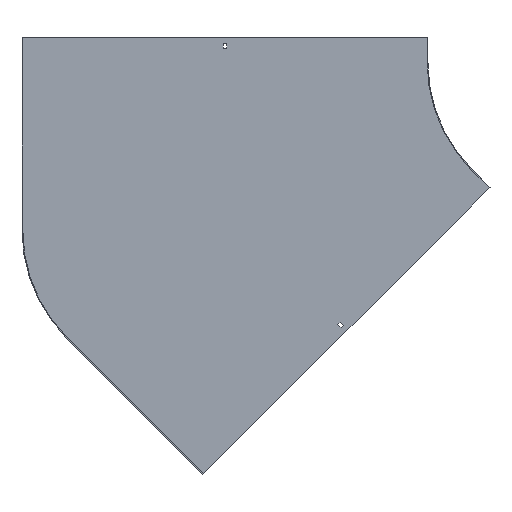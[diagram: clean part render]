
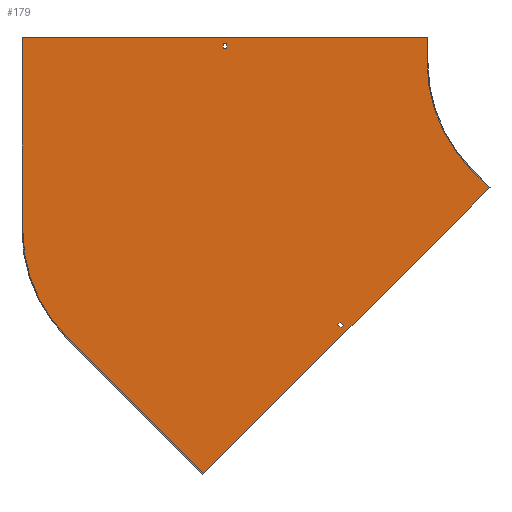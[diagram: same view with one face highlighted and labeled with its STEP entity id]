
A CAD part, front view. The second image highlights one B-rep face of the part: STEP entity #179.
In plain terms, the highlighted planar face has unit normal (0, -1, 0).
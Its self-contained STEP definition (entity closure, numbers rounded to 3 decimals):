
#2 = CARTESIAN_POINT ( 'NONE',  ( -800., -1.5, -331.371 ) ) ;
#4 = VERTEX_POINT ( 'NONE', #636 ) ;
#8 = CARTESIAN_POINT ( 'NONE',  ( 0., -1.5, 29. ) ) ;
#10 = FACE_BOUND ( 'NONE', #368, .T. ) ;
#27 = LINE ( 'NONE', #290, #752 ) ;
#43 = EDGE_LOOP ( 'NONE', ( #602, #136, #538, #697 ) ) ;
#44 = CARTESIAN_POINT ( 'NONE',  ( -703.25, -1.5, 38. ) ) ;
#47 = ORIENTED_EDGE ( 'NONE', *, *, #209, .F. ) ;
#48 = VECTOR ( 'NONE', #497, 1000. ) ;
#59 = VECTOR ( 'NONE', #69, 1000. ) ;
#69 = DIRECTION ( 'NONE',  ( 0., 0., 1. ) ) ;
#78 = ORIENTED_EDGE ( 'NONE', *, *, #601, .F. ) ;
#89 = CARTESIAN_POINT ( 'NONE',  ( 0., -1.5, 0. ) ) ;
#90 = ORIENTED_EDGE ( 'NONE', *, *, #309, .F. ) ;
#95 = CARTESIAN_POINT ( 'NONE',  ( -497.273, -1.5, -497.273 ) ) ;
#106 = VECTOR ( 'NONE', #115, 1000. ) ;
#112 = CARTESIAN_POINT ( 'NONE',  ( -472.171, -1.5, -513.183 ) ) ;
#115 = DIRECTION ( 'NONE',  ( 1., 0., 0. ) ) ;
#125 = DIRECTION ( 'NONE',  ( 0., 0., -1. ) ) ;
#127 = CARTESIAN_POINT ( 'NONE',  ( -300., -1.5, 0. ) ) ;
#128 = CARTESIAN_POINT ( 'NONE',  ( -696.75, -1.5, 29. ) ) ;
#136 = ORIENTED_EDGE ( 'NONE', *, *, #451, .T. ) ;
#145 = PLANE ( 'NONE',  #574 ) ;
#158 = CARTESIAN_POINT ( 'NONE',  ( -212.132, -1.5, -212.132 ) ) ;
#162 = CARTESIAN_POINT ( 'NONE',  ( -742.462, -1.5, -813.173 ) ) ;
#168 = LINE ( 'NONE', #162, #48 ) ;
#179 = ADVANCED_FACE ( 'NONE', ( #10, #222, #543 ), #145, .T. ) ;
#196 = VECTOR ( 'NONE', #594, 1000. ) ;
#200 = CARTESIAN_POINT ( 'NONE',  ( 20.506, -1.5, -20.506 ) ) ;
#203 = CARTESIAN_POINT ( 'NONE',  ( -476.767, -1.5, -517.779 ) ) ;
#209 = EDGE_CURVE ( 'NONE', #577, #544, #664, .T. ) ;
#219 = CARTESIAN_POINT ( 'NONE',  ( -1101.5, -1.5, 50. ) ) ;
#221 = CARTESIAN_POINT ( 'NONE',  ( -742.462, -1.5, -813.173 ) ) ;
#222 = FACE_OUTER_BOUND ( 'NONE', #233, .T. ) ;
#230 = DIRECTION ( 'NONE',  ( 0.707, 0., -0.707 ) ) ;
#233 = EDGE_LOOP ( 'NONE', ( #626, #90, #776, #610, #481, #750, #47, #751 ) ) ;
#238 = CARTESIAN_POINT ( 'NONE',  ( -300., -1.5, 50. ) ) ;
#239 = DIRECTION ( 'NONE',  ( 0.707, 0., -0.707 ) ) ;
#260 = VECTOR ( 'NONE', #125, 1000. ) ;
#261 = DIRECTION ( 'NONE',  ( -0.707, 0., 0.707 ) ) ;
#262 = VERTEX_POINT ( 'NONE', #238 ) ;
#263 = CARTESIAN_POINT ( 'NONE',  ( -696.75, -1.5, 38. ) ) ;
#265 = CARTESIAN_POINT ( 'NONE',  ( -175.716, -1.5, -246.427 ) ) ;
#269 = AXIS2_PLACEMENT_3D ( 'NONE', #292, #806, #803 ) ;
#271 = EDGE_CURVE ( 'NONE', #668, #743, #863, .T. ) ;
#273 = CARTESIAN_POINT ( 'NONE',  ( -1012.132, -1.5, -543.503 ) ) ;
#281 = EDGE_CURVE ( 'NONE', #262, #577, #466, .T. ) ;
#290 = CARTESIAN_POINT ( 'NONE',  ( -212.132, -1.5, -212.132 ) ) ;
#292 = CARTESIAN_POINT ( 'NONE',  ( 0., -1.5, 0. ) ) ;
#296 = LINE ( 'NONE', #414, #781 ) ;
#303 = EDGE_CURVE ( 'NONE', #4, #668, #527, .T. ) ;
#309 = EDGE_CURVE ( 'NONE', #339, #609, #389, .T. ) ;
#308 = VERTEX_POINT ( 'NONE', #128 ) ;
#312 = CARTESIAN_POINT ( 'NONE',  ( -703.25, -1.5, 0. ) ) ;
#323 = CARTESIAN_POINT ( 'NONE',  ( -492.677, -1.5, -492.677 ) ) ;
#325 = VERTEX_POINT ( 'NONE', #221 ) ;
#326 = CARTESIAN_POINT ( 'NONE',  ( -1100., -1.5, -331.371 ) ) ;
#328 = VERTEX_POINT ( 'NONE', #273 ) ;
#330 = VECTOR ( 'NONE', #540, 1000. ) ;
#339 = VERTEX_POINT ( 'NONE', #326 ) ;
#341 = LINE ( 'NONE', #95, #832 ) ;
#350 = DIRECTION ( 'NONE',  ( 0., -1., 0. ) ) ;
#368 = EDGE_LOOP ( 'NONE', ( #494, #468, #431, #78 ) ) ;
#375 = LINE ( 'NONE', #312, #717 ) ;
#376 = AXIS2_PLACEMENT_3D ( 'NONE', #2, #465, #587 ) ;
#384 = LINE ( 'NONE', #573, #106 ) ;
#389 = LINE ( 'NONE', #663, #59 ) ;
#414 = CARTESIAN_POINT ( 'NONE',  ( -696.75, -1.5, 0. ) ) ;
#431 = ORIENTED_EDGE ( 'NONE', *, *, #461, .F. ) ;
#443 = EDGE_CURVE ( 'NONE', #544, #702, #27, .T. ) ;
#447 = EDGE_CURVE ( 'NONE', #325, #328, #168, .T. ) ;
#451 = EDGE_CURVE ( 'NONE', #689, #308, #296, .T. ) ;
#461 = EDGE_CURVE ( 'NONE', #599, #4, #341, .T. ) ;
#465 = DIRECTION ( 'NONE',  ( 0., 1., 0. ) ) ;
#466 = LINE ( 'NONE', #725, #260 ) ;
#468 = ORIENTED_EDGE ( 'NONE', *, *, #303, .F. ) ;
#480 = DIRECTION ( 'NONE',  ( 0., 0., -1. ) ) ;
#481 = ORIENTED_EDGE ( 'NONE', *, *, #718, .F. ) ;
#482 = VECTOR ( 'NONE', #723, 1000. ) ;
#494 = ORIENTED_EDGE ( 'NONE', *, *, #271, .F. ) ;
#497 = DIRECTION ( 'NONE',  ( -0.707, 0., 0.707 ) ) ;
#499 = DIRECTION ( 'NONE',  ( 0., 0., -1. ) ) ;
#524 = EDGE_CURVE ( 'NONE', #609, #262, #739, .T. ) ;
#527 = LINE ( 'NONE', #531, #810 ) ;
#531 = CARTESIAN_POINT ( 'NONE',  ( 26.87, -1.5, -26.87 ) ) ;
#538 = ORIENTED_EDGE ( 'NONE', *, *, #854, .T. ) ;
#540 = DIRECTION ( 'NONE',  ( -1., 0., 0. ) ) ;
#543 = FACE_BOUND ( 'NONE', #43, .T. ) ;
#544 = VERTEX_POINT ( 'NONE', #158 ) ;
#552 = VERTEX_POINT ( 'NONE', #861 ) ;
#564 = VECTOR ( 'NONE', #746, 1000. ) ;
#572 = EDGE_CURVE ( 'NONE', #328, #339, #816, .T. ) ;
#573 = CARTESIAN_POINT ( 'NONE',  ( 0., -1.5, 38. ) ) ;
#574 = AXIS2_PLACEMENT_3D ( 'NONE', #89, #350, #480 ) ;
#577 = VERTEX_POINT ( 'NONE', #127 ) ;
#587 = DIRECTION ( 'NONE',  ( 0., 0., -1. ) ) ;
#594 = DIRECTION ( 'NONE',  ( -0.707, 0., -0.707 ) ) ;
#599 = VERTEX_POINT ( 'NONE', #203 ) ;
#601 = EDGE_CURVE ( 'NONE', #743, #599, #729, .T. ) ;
#602 = ORIENTED_EDGE ( 'NONE', *, *, #724, .T. ) ;
#604 = LINE ( 'NONE', #8, #330 ) ;
#609 = VERTEX_POINT ( 'NONE', #852 ) ;
#610 = ORIENTED_EDGE ( 'NONE', *, *, #447, .F. ) ;
#626 = ORIENTED_EDGE ( 'NONE', *, *, #524, .F. ) ;
#636 = CARTESIAN_POINT ( 'NONE',  ( -470.403, -1.5, -524.143 ) ) ;
#637 = VECTOR ( 'NONE', #261, 1000. ) ;
#650 = DIRECTION ( 'NONE',  ( 0., 0., 1. ) ) ;
#663 = CARTESIAN_POINT ( 'NONE',  ( -1100., -1.5, -331.371 ) ) ;
#664 = CIRCLE ( 'NONE', #269, 300. ) ;
#668 = VERTEX_POINT ( 'NONE', #765 ) ;
#689 = VERTEX_POINT ( 'NONE', #263 ) ;
#697 = ORIENTED_EDGE ( 'NONE', *, *, #728, .T. ) ;
#702 = VERTEX_POINT ( 'NONE', #715 ) ;
#715 = CARTESIAN_POINT ( 'NONE',  ( -176.777, -1.5, -247.487 ) ) ;
#717 = VECTOR ( 'NONE', #650, 1000. ) ;
#718 = EDGE_CURVE ( 'NONE', #702, #325, #860, .T. ) ;
#723 = DIRECTION ( 'NONE',  ( -0.707, 0., -0.707 ) ) ;
#724 = EDGE_CURVE ( 'NONE', #821, #689, #384, .T. ) ;
#725 = CARTESIAN_POINT ( 'NONE',  ( -300., -1.5, 50. ) ) ;
#728 = EDGE_CURVE ( 'NONE', #552, #821, #375, .T. ) ;
#729 = LINE ( 'NONE', #200, #196 ) ;
#739 = LINE ( 'NONE', #219, #564 ) ;
#743 = VERTEX_POINT ( 'NONE', #112 ) ;
#746 = DIRECTION ( 'NONE',  ( 1., 0., 0. ) ) ;
#750 = ORIENTED_EDGE ( 'NONE', *, *, #443, .F. ) ;
#751 = ORIENTED_EDGE ( 'NONE', *, *, #281, .F. ) ;
#752 = VECTOR ( 'NONE', #230, 1000. ) ;
#765 = CARTESIAN_POINT ( 'NONE',  ( -465.807, -1.5, -519.547 ) ) ;
#776 = ORIENTED_EDGE ( 'NONE', *, *, #572, .F. ) ;
#781 = VECTOR ( 'NONE', #499, 1000. ) ;
#800 = DIRECTION ( 'NONE',  ( 0.707, 0., 0.707 ) ) ;
#803 = DIRECTION ( 'NONE',  ( 0., 0., -1. ) ) ;
#806 = DIRECTION ( 'NONE',  ( 0., -1., 0. ) ) ;
#810 = VECTOR ( 'NONE', #800, 1000. ) ;
#816 = CIRCLE ( 'NONE', #376, 300. ) ;
#821 = VERTEX_POINT ( 'NONE', #44 ) ;
#832 = VECTOR ( 'NONE', #239, 1000. ) ;
#852 = CARTESIAN_POINT ( 'NONE',  ( -1100., -1.5, 50. ) ) ;
#854 = EDGE_CURVE ( 'NONE', #308, #552, #604, .T. ) ;
#860 = LINE ( 'NONE', #265, #482 ) ;
#861 = CARTESIAN_POINT ( 'NONE',  ( -703.25, -1.5, 29. ) ) ;
#863 = LINE ( 'NONE', #323, #637 ) ;
